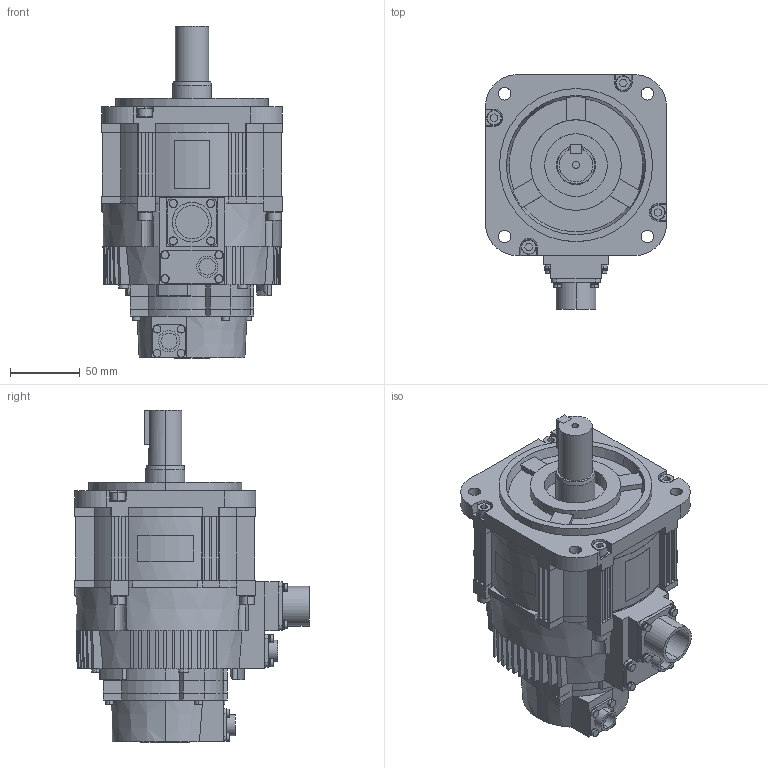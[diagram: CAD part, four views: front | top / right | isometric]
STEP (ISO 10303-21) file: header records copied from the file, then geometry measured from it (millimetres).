
FILE_DESCRIPTION (( 'STEP AP203' ), '1' );
FILE_NAME ('sgm7g_09a6a6c.STEP', '2016-11-12T04:50:29', ( '匠エンジニアリング山之内' ), ( 'TAKUMI-Engniaring' ), 'SwSTEP 2.0', 'SolidWorks 2006303', '' );
FILE_SCHEMA (( 'CONFIG_CONTROL_DESIGN' ));
Length unit declared in the file: millimetre
Products named in the file (3): sgm7g_09a6a6c; sgm7g_09a6a6c_base; sgm7g_09a6a6c_key
Assembly tree (2 placements, depth 2):
  sgm7g_09a6a6c
    sgm7g_09a6a6c_key
    sgm7g_09a6a6c_base
Bounding box: 130 x 168.49 x 238.6 mm (x, y, z)
Volume: 2087230.6 mm3; surface area: 159650.6 mm2
Topology: 2 solids, 2 shells, 942 faces, 2398 edges, 1557 vertices
Faces by surface type: plane 589, cylinder 253, cone 100
Entity records: 29352 total; most frequent: CARTESIAN_POINT 5871, DIRECTION 4891, ORIENTED_EDGE 4796, EDGE_CURVE 2398, AXIS2_PLACEMENT_3D 1725, VERTEX_POINT 1557, LINE 1441, VECTOR 1441
